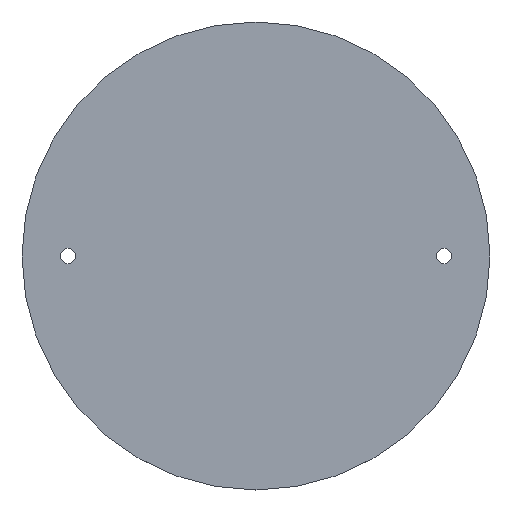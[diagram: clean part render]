
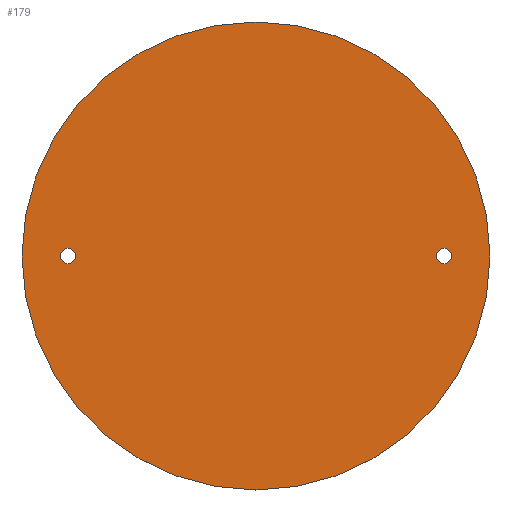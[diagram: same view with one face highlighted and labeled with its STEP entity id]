
A CAD part, top view. The second image highlights one B-rep face of the part: STEP entity #179.
In plain terms, the highlighted planar face has unit normal (0, 0, 1).
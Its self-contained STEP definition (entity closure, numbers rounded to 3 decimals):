
#24 = VERTEX_POINT('',#25);
#25 = CARTESIAN_POINT('',(61.,0.,1.));
#32 = CYLINDRICAL_SURFACE('',#33,61.);
#33 = AXIS2_PLACEMENT_3D('',#34,#35,#36);
#34 = CARTESIAN_POINT('',(0.,0.,0.));
#35 = DIRECTION('',(-0.,-0.,-1.));
#36 = DIRECTION('',(1.,0.,-0.));
#51 = EDGE_CURVE('',#24,#24,#52,.T.);
#52 = SURFACE_CURVE('',#53,(#58,#65),.PCURVE_S1.);
#53 = CIRCLE('',#54,61.);
#54 = AXIS2_PLACEMENT_3D('',#55,#56,#57);
#55 = CARTESIAN_POINT('',(0.,0.,1.));
#56 = DIRECTION('',(0.,0.,1.));
#57 = DIRECTION('',(1.,0.,-0.));
#58 = PCURVE('',#32,#59);
#59 = DEFINITIONAL_REPRESENTATION('',(#60),#64);
#60 = LINE('',#61,#62);
#61 = CARTESIAN_POINT('',(-0.,-1.));
#62 = VECTOR('',#63,1.);
#63 = DIRECTION('',(-1.,0.));
#64 = ( GEOMETRIC_REPRESENTATION_CONTEXT(2) 
PARAMETRIC_REPRESENTATION_CONTEXT() REPRESENTATION_CONTEXT('2D SPACE',''
  ) );
#65 = PCURVE('',#66,#71);
#66 = PLANE('',#67);
#67 = AXIS2_PLACEMENT_3D('',#68,#69,#70);
#68 = CARTESIAN_POINT('',(0.,0.,1.));
#69 = DIRECTION('',(0.,0.,1.));
#70 = DIRECTION('',(1.,0.,-0.));
#71 = DEFINITIONAL_REPRESENTATION('',(#72),#76);
#72 = CIRCLE('',#73,61.);
#73 = AXIS2_PLACEMENT_2D('',#74,#75);
#74 = CARTESIAN_POINT('',(0.,0.));
#75 = DIRECTION('',(1.,0.));
#76 = ( GEOMETRIC_REPRESENTATION_CONTEXT(2) 
PARAMETRIC_REPRESENTATION_CONTEXT() REPRESENTATION_CONTEXT('2D SPACE',''
  ) );
#133 = CYLINDRICAL_SURFACE('',#134,2.);
#134 = AXIS2_PLACEMENT_3D('',#135,#136,#137);
#135 = CARTESIAN_POINT('',(-49.,0.,-1.));
#136 = DIRECTION('',(-0.,-0.,-1.));
#137 = DIRECTION('',(1.,0.,0.));
#168 = CYLINDRICAL_SURFACE('',#169,2.);
#169 = AXIS2_PLACEMENT_3D('',#170,#171,#172);
#170 = CARTESIAN_POINT('',(49.,0.,-1.));
#171 = DIRECTION('',(-0.,-0.,-1.));
#172 = DIRECTION('',(1.,0.,0.));
#179 = ADVANCED_FACE('',(#180,#183,#213),#66,.T.);
#180 = FACE_BOUND('',#181,.T.);
#181 = EDGE_LOOP('',(#182));
#182 = ORIENTED_EDGE('',*,*,#51,.T.);
#183 = FACE_BOUND('',#184,.T.);
#184 = EDGE_LOOP('',(#185));
#185 = ORIENTED_EDGE('',*,*,#186,.T.);
#186 = EDGE_CURVE('',#187,#187,#189,.T.);
#187 = VERTEX_POINT('',#188);
#188 = CARTESIAN_POINT('',(-47.,0.,1.));
#189 = SURFACE_CURVE('',#190,(#195,#206),.PCURVE_S1.);
#190 = CIRCLE('',#191,2.);
#191 = AXIS2_PLACEMENT_3D('',#192,#193,#194);
#192 = CARTESIAN_POINT('',(-49.,0.,1.));
#193 = DIRECTION('',(0.,0.,-1.));
#194 = DIRECTION('',(1.,0.,0.));
#195 = PCURVE('',#66,#196);
#196 = DEFINITIONAL_REPRESENTATION('',(#197),#205);
#197 = ( BOUNDED_CURVE() B_SPLINE_CURVE(2,(#198,#199,#200,#201,#202,#203
,#204),.UNSPECIFIED.,.T.,.F.) B_SPLINE_CURVE_WITH_KNOTS((1,2,2,2,2,1),(
    -2.094,0.,2.094,4.189,6.283,
8.378),.UNSPECIFIED.) CURVE() GEOMETRIC_REPRESENTATION_ITEM() 
RATIONAL_B_SPLINE_CURVE((1.,0.5,1.,0.5,1.,0.5,1.)) REPRESENTATION_ITEM(
  '') );
#198 = CARTESIAN_POINT('',(-47.,0.));
#199 = CARTESIAN_POINT('',(-47.,-3.464));
#200 = CARTESIAN_POINT('',(-50.,-1.732));
#201 = CARTESIAN_POINT('',(-53.,0.));
#202 = CARTESIAN_POINT('',(-50.,1.732));
#203 = CARTESIAN_POINT('',(-47.,3.464));
#204 = CARTESIAN_POINT('',(-47.,0.));
#205 = ( GEOMETRIC_REPRESENTATION_CONTEXT(2) 
PARAMETRIC_REPRESENTATION_CONTEXT() REPRESENTATION_CONTEXT('2D SPACE',''
  ) );
#206 = PCURVE('',#133,#207);
#207 = DEFINITIONAL_REPRESENTATION('',(#208),#212);
#208 = LINE('',#209,#210);
#209 = CARTESIAN_POINT('',(-6.283,-2.));
#210 = VECTOR('',#211,1.);
#211 = DIRECTION('',(1.,-0.));
#212 = ( GEOMETRIC_REPRESENTATION_CONTEXT(2) 
PARAMETRIC_REPRESENTATION_CONTEXT() REPRESENTATION_CONTEXT('2D SPACE',''
  ) );
#213 = FACE_BOUND('',#214,.T.);
#214 = EDGE_LOOP('',(#215));
#215 = ORIENTED_EDGE('',*,*,#216,.T.);
#216 = EDGE_CURVE('',#217,#217,#219,.T.);
#217 = VERTEX_POINT('',#218);
#218 = CARTESIAN_POINT('',(51.,0.,1.));
#219 = SURFACE_CURVE('',#220,(#225,#236),.PCURVE_S1.);
#220 = CIRCLE('',#221,2.);
#221 = AXIS2_PLACEMENT_3D('',#222,#223,#224);
#222 = CARTESIAN_POINT('',(49.,0.,1.));
#223 = DIRECTION('',(0.,0.,-1.));
#224 = DIRECTION('',(1.,0.,0.));
#225 = PCURVE('',#66,#226);
#226 = DEFINITIONAL_REPRESENTATION('',(#227),#235);
#227 = ( BOUNDED_CURVE() B_SPLINE_CURVE(2,(#228,#229,#230,#231,#232,#233
,#234),.UNSPECIFIED.,.T.,.F.) B_SPLINE_CURVE_WITH_KNOTS((1,2,2,2,2,1),(
    -2.094,0.,2.094,4.189,6.283,
8.378),.UNSPECIFIED.) CURVE() GEOMETRIC_REPRESENTATION_ITEM() 
RATIONAL_B_SPLINE_CURVE((1.,0.5,1.,0.5,1.,0.5,1.)) REPRESENTATION_ITEM(
  '') );
#228 = CARTESIAN_POINT('',(51.,0.));
#229 = CARTESIAN_POINT('',(51.,-3.464));
#230 = CARTESIAN_POINT('',(48.,-1.732));
#231 = CARTESIAN_POINT('',(45.,0.));
#232 = CARTESIAN_POINT('',(48.,1.732));
#233 = CARTESIAN_POINT('',(51.,3.464));
#234 = CARTESIAN_POINT('',(51.,0.));
#235 = ( GEOMETRIC_REPRESENTATION_CONTEXT(2) 
PARAMETRIC_REPRESENTATION_CONTEXT() REPRESENTATION_CONTEXT('2D SPACE',''
  ) );
#236 = PCURVE('',#168,#237);
#237 = DEFINITIONAL_REPRESENTATION('',(#238),#242);
#238 = LINE('',#239,#240);
#239 = CARTESIAN_POINT('',(-6.283,-2.));
#240 = VECTOR('',#241,1.);
#241 = DIRECTION('',(1.,-0.));
#242 = ( GEOMETRIC_REPRESENTATION_CONTEXT(2) 
PARAMETRIC_REPRESENTATION_CONTEXT() REPRESENTATION_CONTEXT('2D SPACE',''
  ) );
